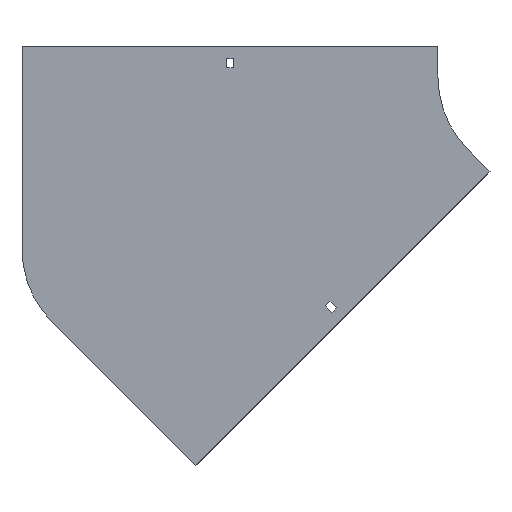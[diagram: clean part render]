
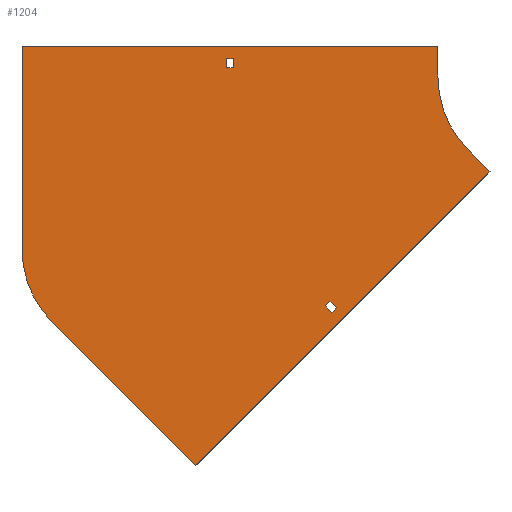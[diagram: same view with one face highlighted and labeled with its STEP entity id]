
A CAD part, front view. The second image highlights one B-rep face of the part: STEP entity #1204.
In plain terms, the highlighted planar face has unit normal (0, -1, 0).
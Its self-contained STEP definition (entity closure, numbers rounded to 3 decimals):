
#12 = CARTESIAN_POINT ( 'NONE',  ( -49.497, 0., -91.924 ) ) ;
#34 = EDGE_CURVE ( 'NONE', #192, #640, #548, .T. ) ;
#44 = PLANE ( 'NONE',  #1077 ) ;
#50 = CARTESIAN_POINT ( 'NONE',  ( -204.884, 0., -217.612 ) ) ;
#58 = EDGE_LOOP ( 'NONE', ( #1569, #1844, #1040, #391 ) ) ;
#87 = CARTESIAN_POINT ( 'NONE',  ( -504., 0., 30. ) ) ;
#88 = LINE ( 'NONE', #531, #539 ) ;
#136 = CIRCLE ( 'NONE', #1782, 100. ) ;
#148 = CARTESIAN_POINT ( 'NONE',  ( -198.52, 0., -223.976 ) ) ;
#152 = ORIENTED_EDGE ( 'NONE', *, *, #307, .F. ) ;
#153 = VERTEX_POINT ( 'NONE', #798 ) ;
#164 = VECTOR ( 'NONE', #757, 1000. ) ;
#177 = FACE_BOUND ( 'NONE', #1173, .T. ) ;
#183 = ORIENTED_EDGE ( 'NONE', *, *, #1388, .F. ) ;
#192 = VERTEX_POINT ( 'NONE', #674 ) ;
#201 = VERTEX_POINT ( 'NONE', #1456 ) ;
#209 = DIRECTION ( 'NONE',  ( 0., 0., -1. ) ) ;
#244 = EDGE_CURVE ( 'NONE', #419, #153, #962, .T. ) ;
#245 = EDGE_LOOP ( 'NONE', ( #183, #1183, #152, #1068, #1538, #861, #1929, #1106 ) ) ;
#256 = EDGE_CURVE ( 'NONE', #201, #1764, #1008, .T. ) ;
#270 = CARTESIAN_POINT ( 'NONE',  ( -209.48, 0., -222.208 ) ) ;
#271 = LINE ( 'NONE', #87, #297 ) ;
#286 = EDGE_CURVE ( 'NONE', #509, #1581, #1000, .T. ) ;
#295 = CARTESIAN_POINT ( 'NONE',  ( -70.711, 0., -70.711 ) ) ;
#297 = VECTOR ( 'NONE', #530, 1000. ) ;
#306 = CARTESIAN_POINT ( 'NONE',  ( -100., 0., 30. ) ) ;
#307 = EDGE_CURVE ( 'NONE', #153, #1488, #136, .T. ) ;
#337 = LINE ( 'NONE', #582, #1913 ) ;
#350 = VERTEX_POINT ( 'NONE', #1294 ) ;
#360 = CARTESIAN_POINT ( 'NONE',  ( -49.497, 0., -91.924 ) ) ;
#365 = CARTESIAN_POINT ( 'NONE',  ( -209.48, 0., -222.208 ) ) ;
#369 = CARTESIAN_POINT ( 'NONE',  ( -335.169, 0., -377.595 ) ) ;
#391 = ORIENTED_EDGE ( 'NONE', *, *, #474, .T. ) ;
#419 = VERTEX_POINT ( 'NONE', #1673 ) ;
#465 = VECTOR ( 'NONE', #1921, 1000. ) ;
#474 = EDGE_CURVE ( 'NONE', #1102, #1151, #1437, .T. ) ;
#503 = DIRECTION ( 'NONE',  ( 0., -1., 0. ) ) ;
#509 = VERTEX_POINT ( 'NONE', #50 ) ;
#519 = DIRECTION ( 'NONE',  ( -0.707, 0., 0.707 ) ) ;
#530 = DIRECTION ( 'NONE',  ( 1., 0., 0. ) ) ;
#531 = CARTESIAN_POINT ( 'NONE',  ( -504., 0., -167.342 ) ) ;
#539 = VECTOR ( 'NONE', #1562, 1000. ) ;
#542 = CARTESIAN_POINT ( 'NONE',  ( -404., 0., -167.342 ) ) ;
#548 = LINE ( 'NONE', #295, #465 ) ;
#552 = EDGE_CURVE ( 'NONE', #1764, #509, #1282, .T. ) ;
#577 = EDGE_CURVE ( 'NONE', #640, #419, #1512, .T. ) ;
#582 = CARTESIAN_POINT ( 'NONE',  ( -298.75, 0., 9. ) ) ;
#599 = DIRECTION ( 'NONE',  ( 0., 0., 1. ) ) ;
#607 = AXIS2_PLACEMENT_3D ( 'NONE', #1643, #1660, #1368 ) ;
#633 = CARTESIAN_POINT ( 'NONE',  ( -298.75, 0., 9. ) ) ;
#640 = VERTEX_POINT ( 'NONE', #360 ) ;
#674 = CARTESIAN_POINT ( 'NONE',  ( -70.711, 0., -70.711 ) ) ;
#682 = VECTOR ( 'NONE', #1600, 1000. ) ;
#692 = FACE_OUTER_BOUND ( 'NONE', #245, .T. ) ;
#757 = DIRECTION ( 'NONE',  ( -0.707, 0., -0.707 ) ) ;
#798 = CARTESIAN_POINT ( 'NONE',  ( -474.711, 0., -238.053 ) ) ;
#858 = LINE ( 'NONE', #365, #1245 ) ;
#861 = ORIENTED_EDGE ( 'NONE', *, *, #34, .F. ) ;
#886 = ORIENTED_EDGE ( 'NONE', *, *, #1649, .F. ) ;
#889 = LINE ( 'NONE', #1633, #1007 ) ;
#923 = EDGE_CURVE ( 'NONE', #1205, #1344, #1838, .T. ) ;
#940 = ORIENTED_EDGE ( 'NONE', *, *, #256, .F. ) ;
#962 = LINE ( 'NONE', #369, #1653 ) ;
#990 = VECTOR ( 'NONE', #1726, 1000. ) ;
#1000 = LINE ( 'NONE', #270, #1807 ) ;
#1001 = CARTESIAN_POINT ( 'NONE',  ( -305.25, 0., 9. ) ) ;
#1007 = VECTOR ( 'NONE', #599, 1000. ) ;
#1008 = LINE ( 'NONE', #1465, #1558 ) ;
#1024 = EDGE_CURVE ( 'NONE', #1488, #1504, #88, .T. ) ;
#1040 = ORIENTED_EDGE ( 'NONE', *, *, #1459, .T. ) ;
#1068 = ORIENTED_EDGE ( 'NONE', *, *, #244, .F. ) ;
#1077 = AXIS2_PLACEMENT_3D ( 'NONE', #1536, #503, #209 ) ;
#1099 = DIRECTION ( 'NONE',  ( 0., 0., -1. ) ) ;
#1102 = VERTEX_POINT ( 'NONE', #633 ) ;
#1106 = ORIENTED_EDGE ( 'NONE', *, *, #923, .F. ) ;
#1139 = DIRECTION ( 'NONE',  ( -0.707, 0., 0.707 ) ) ;
#1151 = VERTEX_POINT ( 'NONE', #1001 ) ;
#1173 = EDGE_LOOP ( 'NONE', ( #940, #886, #1802, #1736 ) ) ;
#1183 = ORIENTED_EDGE ( 'NONE', *, *, #1024, .F. ) ;
#1204 = ADVANCED_FACE ( 'NONE', ( #1738, #692, #177 ), #44, .T. ) ;
#1205 = VERTEX_POINT ( 'NONE', #1703 ) ;
#1245 = VECTOR ( 'NONE', #1463, 1000. ) ;
#1282 = LINE ( 'NONE', #1595, #1401 ) ;
#1294 = CARTESIAN_POINT ( 'NONE',  ( -305.25, 0., 18. ) ) ;
#1308 = EDGE_CURVE ( 'NONE', #350, #1779, #1618, .T. ) ;
#1329 = CARTESIAN_POINT ( 'NONE',  ( -100., 0., 0. ) ) ;
#1344 = VERTEX_POINT ( 'NONE', #1329 ) ;
#1368 = DIRECTION ( 'NONE',  ( 0., 0., -1. ) ) ;
#1388 = EDGE_CURVE ( 'NONE', #1504, #1205, #271, .T. ) ;
#1397 = CARTESIAN_POINT ( 'NONE',  ( -504., 0., -167.342 ) ) ;
#1401 = VECTOR ( 'NONE', #519, 1000. ) ;
#1437 = LINE ( 'NONE', #1882, #990 ) ;
#1456 = CARTESIAN_POINT ( 'NONE',  ( -203.116, 0., -228.572 ) ) ;
#1459 = EDGE_CURVE ( 'NONE', #1779, #1102, #337, .T. ) ;
#1461 = DIRECTION ( 'NONE',  ( 0., 1., 0. ) ) ;
#1463 = DIRECTION ( 'NONE',  ( 0.707, 0., -0.707 ) ) ;
#1465 = CARTESIAN_POINT ( 'NONE',  ( -203.116, 0., -228.572 ) ) ;
#1484 = CIRCLE ( 'NONE', #607, 100. ) ;
#1488 = VERTEX_POINT ( 'NONE', #1397 ) ;
#1504 = VERTEX_POINT ( 'NONE', #1839 ) ;
#1512 = LINE ( 'NONE', #12, #164 ) ;
#1536 = CARTESIAN_POINT ( 'NONE',  ( 0., 0., 0. ) ) ;
#1538 = ORIENTED_EDGE ( 'NONE', *, *, #577, .F. ) ;
#1558 = VECTOR ( 'NONE', #1589, 1000. ) ;
#1562 = DIRECTION ( 'NONE',  ( 0., 0., 1. ) ) ;
#1569 = ORIENTED_EDGE ( 'NONE', *, *, #1858, .T. ) ;
#1581 = VERTEX_POINT ( 'NONE', #1715 ) ;
#1589 = DIRECTION ( 'NONE',  ( 0.707, 0., 0.707 ) ) ;
#1595 = CARTESIAN_POINT ( 'NONE',  ( -204.884, 0., -217.612 ) ) ;
#1600 = DIRECTION ( 'NONE',  ( 1., 0., 0. ) ) ;
#1618 = LINE ( 'NONE', #1897, #682 ) ;
#1622 = DIRECTION ( 'NONE',  ( 0., 0., 1. ) ) ;
#1633 = CARTESIAN_POINT ( 'NONE',  ( -305.25, 0., 9. ) ) ;
#1643 = CARTESIAN_POINT ( 'NONE',  ( 0., 0., 0. ) ) ;
#1649 = EDGE_CURVE ( 'NONE', #1581, #201, #858, .T. ) ;
#1651 = CARTESIAN_POINT ( 'NONE',  ( -298.75, 0., 18. ) ) ;
#1653 = VECTOR ( 'NONE', #1139, 1000. ) ;
#1660 = DIRECTION ( 'NONE',  ( 0., -1., 0. ) ) ;
#1673 = CARTESIAN_POINT ( 'NONE',  ( -335.169, 0., -377.595 ) ) ;
#1679 = VECTOR ( 'NONE', #1818, 1000. ) ;
#1703 = CARTESIAN_POINT ( 'NONE',  ( -100., 0., 30. ) ) ;
#1715 = CARTESIAN_POINT ( 'NONE',  ( -209.48, 0., -222.208 ) ) ;
#1726 = DIRECTION ( 'NONE',  ( -1., 0., 0. ) ) ;
#1736 = ORIENTED_EDGE ( 'NONE', *, *, #552, .F. ) ;
#1738 = FACE_BOUND ( 'NONE', #58, .T. ) ;
#1764 = VERTEX_POINT ( 'NONE', #148 ) ;
#1769 = DIRECTION ( 'NONE',  ( -0.707, 0., -0.707 ) ) ;
#1779 = VERTEX_POINT ( 'NONE', #1651 ) ;
#1782 = AXIS2_PLACEMENT_3D ( 'NONE', #542, #1461, #1622 ) ;
#1802 = ORIENTED_EDGE ( 'NONE', *, *, #286, .F. ) ;
#1807 = VECTOR ( 'NONE', #1769, 1000. ) ;
#1818 = DIRECTION ( 'NONE',  ( 0., 0., -1. ) ) ;
#1833 = EDGE_CURVE ( 'NONE', #1344, #192, #1484, .T. ) ;
#1838 = LINE ( 'NONE', #306, #1679 ) ;
#1839 = CARTESIAN_POINT ( 'NONE',  ( -504., 0., 30. ) ) ;
#1844 = ORIENTED_EDGE ( 'NONE', *, *, #1308, .T. ) ;
#1858 = EDGE_CURVE ( 'NONE', #1151, #350, #889, .T. ) ;
#1882 = CARTESIAN_POINT ( 'NONE',  ( -305.25, 0., 9. ) ) ;
#1897 = CARTESIAN_POINT ( 'NONE',  ( -305.25, 0., 18. ) ) ;
#1913 = VECTOR ( 'NONE', #1099, 1000. ) ;
#1921 = DIRECTION ( 'NONE',  ( 0.707, 0., -0.707 ) ) ;
#1929 = ORIENTED_EDGE ( 'NONE', *, *, #1833, .F. ) ;
